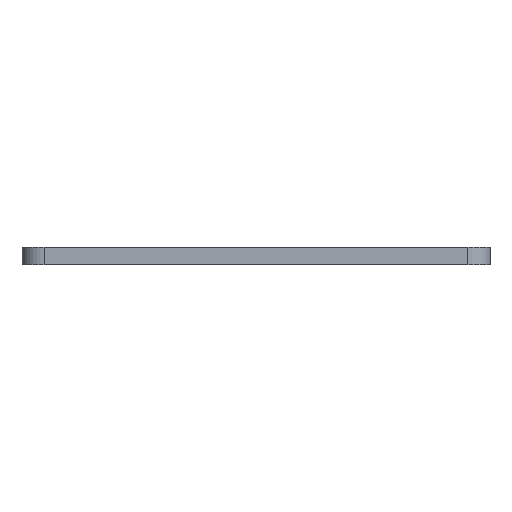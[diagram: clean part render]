
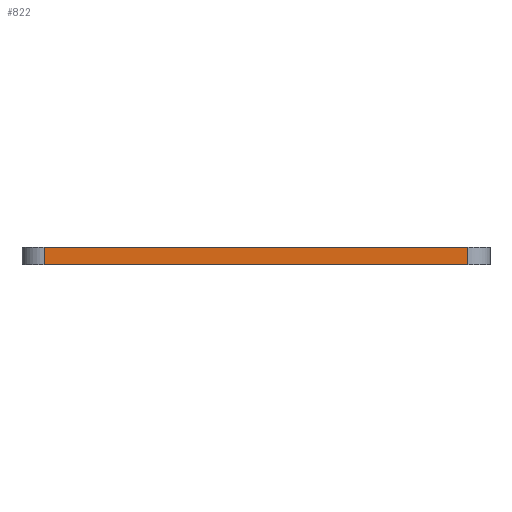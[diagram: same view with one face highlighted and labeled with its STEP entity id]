
A CAD part, left-side view. The second image highlights one B-rep face of the part: STEP entity #822.
In plain terms, the highlighted planar face has unit normal (-1, 0, 0).
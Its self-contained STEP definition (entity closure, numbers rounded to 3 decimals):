
#3 = LINE ( 'NONE', #691, #546 ) ;
#49 = EDGE_CURVE ( 'NONE', #516, #781, #3, .T. ) ;
#80 = EDGE_CURVE ( 'NONE', #516, #918, #561, .T. ) ;
#96 = EDGE_LOOP ( 'NONE', ( #556, #225, #590, #130 ) ) ;
#113 = DIRECTION ( 'NONE',  ( 0., 0., 1. ) ) ;
#130 = ORIENTED_EDGE ( 'NONE', *, *, #1146, .T. ) ;
#147 = CARTESIAN_POINT ( 'NONE',  ( -52., -24., 2. ) ) ;
#148 = FACE_OUTER_BOUND ( 'NONE', #96, .T. ) ;
#225 = ORIENTED_EDGE ( 'NONE', *, *, #80, .F. ) ;
#279 = DIRECTION ( 'NONE',  ( 0., 0., -1. ) ) ;
#311 = CARTESIAN_POINT ( 'NONE',  ( -52., -24., 0. ) ) ;
#337 = CARTESIAN_POINT ( 'NONE',  ( -52., -24., 2. ) ) ;
#383 = CARTESIAN_POINT ( 'NONE',  ( -52., -24., 0. ) ) ;
#389 = CARTESIAN_POINT ( 'NONE',  ( -52., 24., 2. ) ) ;
#391 = VECTOR ( 'NONE', #750, 1000. ) ;
#421 = CARTESIAN_POINT ( 'NONE',  ( -52., 24., 2. ) ) ;
#487 = DIRECTION ( 'NONE',  ( -1., 0., 0. ) ) ;
#516 = VERTEX_POINT ( 'NONE', #147 ) ;
#546 = VECTOR ( 'NONE', #952, 1000. ) ;
#556 = ORIENTED_EDGE ( 'NONE', *, *, #688, .F. ) ;
#561 = LINE ( 'NONE', #337, #888 ) ;
#590 = ORIENTED_EDGE ( 'NONE', *, *, #49, .T. ) ;
#594 = PLANE ( 'NONE',  #696 ) ;
#688 = EDGE_CURVE ( 'NONE', #918, #1141, #891, .T. ) ;
#691 = CARTESIAN_POINT ( 'NONE',  ( -52., -24., 2. ) ) ;
#696 = AXIS2_PLACEMENT_3D ( 'NONE', #848, #487, #113 ) ;
#750 = DIRECTION ( 'NONE',  ( 0., 0., -1. ) ) ;
#781 = VERTEX_POINT ( 'NONE', #421 ) ;
#822 = ADVANCED_FACE ( 'NONE', ( #148 ), #594, .T. ) ;
#848 = CARTESIAN_POINT ( 'NONE',  ( -52., -24., 2. ) ) ;
#888 = VECTOR ( 'NONE', #279, 1000. ) ;
#891 = LINE ( 'NONE', #383, #1074 ) ;
#893 = DIRECTION ( 'NONE',  ( 0., 1., 0. ) ) ;
#918 = VERTEX_POINT ( 'NONE', #311 ) ;
#952 = DIRECTION ( 'NONE',  ( 0., 1., 0. ) ) ;
#1003 = LINE ( 'NONE', #389, #391 ) ;
#1074 = VECTOR ( 'NONE', #893, 1000. ) ;
#1083 = CARTESIAN_POINT ( 'NONE',  ( -52., 24., 0. ) ) ;
#1141 = VERTEX_POINT ( 'NONE', #1083 ) ;
#1146 = EDGE_CURVE ( 'NONE', #781, #1141, #1003, .T. ) ;
